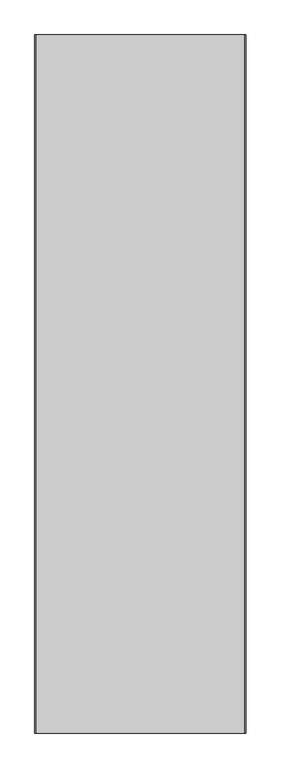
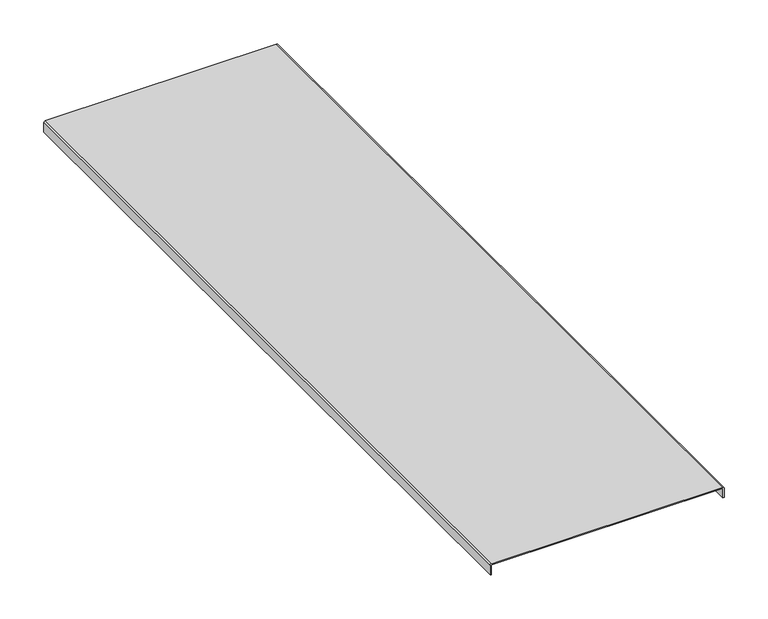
"""IFC4 building model written with IfcOpenShell, lengths in millimetres: proxy geometry, Cable_Ladder_Cover_TI-_Basortrav : Basortrav TI 12 3M."""

from ifc_helpers import new_model, si_unit, point, frame, frame_2d, origin, place, context, project, spatial, polyline, circle_curve, trimmed, segment, composite_curve, outline, extrude, source, transform, mapped, element, save


def generic_models_acc7646d(model_context):
    return source(origin(), model_context, "Body", "SweptSolid", [
        extrude(outline(composite_curve([segment(trimmed(circle_curve(frame_2d((-0.5, -151.9)), 0.5), [point((-0.5, -152.4))], [point((0.0, -151.9))], True, "CARTESIAN"), True, "CONTINUOUS"), segment(polyline([(0.0, -151.9), (0.0, 151.9)]), True, "CONTINUOUS"), segment(trimmed(circle_curve(frame_2d((-0.5, 151.9)), 0.5), [point((0.0, 151.9))], [point((-0.5, 152.4))], True, "CARTESIAN"), True, "CONTINUOUS"), segment(polyline([(-0.5, 152.4), (-13.5, 152.4), (-13.5, 153.9), (-0.5, 153.9)]), True, "CONTINUOUS"), segment(trimmed(circle_curve(frame_2d((-0.5, 151.9)), 2.0), [point((-0.5, 153.9))], [point((1.5, 151.9))], False, "CARTESIAN"), True, "CONTINUOUS"), segment(polyline([(1.5, 151.9), (1.5, -151.9)]), True, "CONTINUOUS"), segment(trimmed(circle_curve(frame_2d((-0.5, -151.9)), 2.0), [point((1.5, -151.9))], [point((-0.5, -153.9))], False, "CARTESIAN"), True, "CONTINUOUS"), segment(polyline([(-0.5, -153.9), (-13.5, -153.9), (-13.5, -152.4), (-0.5, -152.4)]), True, "CONTINUOUS")], self_intersect=False)), frame((0.0, 0.0, 0.0), z_axis=(0.0, 1.0, 0.0), x_axis=(0.0, 0.0, 1.0)), (0.0, 0.0, 1.0), 1016.0),
    ])


if __name__ == "__main__":
    model = new_model("IFC4")
    model_context = context("Model", 3, world=origin())
    ifc_project = project(units=[si_unit("LENGTHUNIT", "METRE", prefix="MILLI")], contexts=[model_context])
    site = spatial("IfcSite", under=ifc_project)
    building = spatial("IfcBuilding", under=site)
    placement = place(None, origin())
    generic_models_shape = generic_models_acc7646d(model_context)
    element("IfcBuildingElementProxy", 1, Name="Cable_Ladder_Cover_TI-_Basortrav : Basortrav TI 12 3M", ObjectType="Cable_Ladder_Cover_TI-_Basortrav : Basortrav TI 12 3M", at=placement, inside=building, context=model_context, shape_type="MappedRepresentation", body=[
        mapped(generic_models_shape, transform((0.0, 0.0, 0.0), x_axis=(1.0, 0.0, 0.0), y_axis=(0.0, 1.0, 0.0), z_axis=(0.0, 0.0, 1.0))),
    ])
    save(model, "model.ifc")
